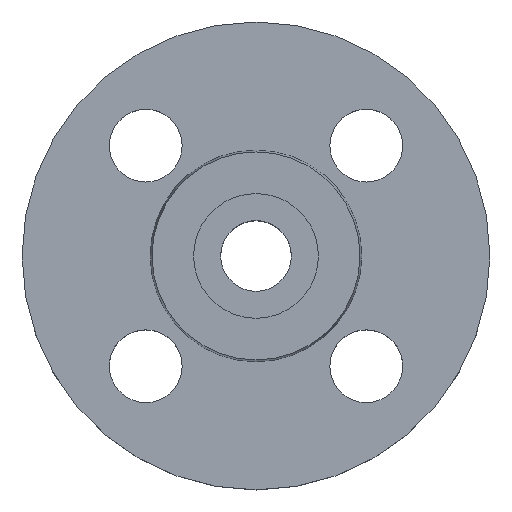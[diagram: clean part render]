
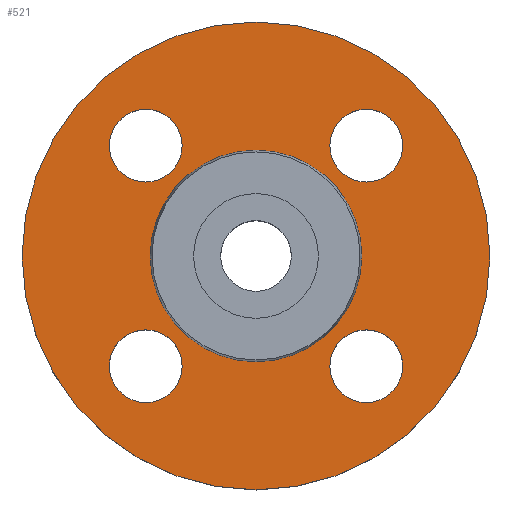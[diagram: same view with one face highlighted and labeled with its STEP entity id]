
A CAD part, top view. The second image highlights one B-rep face of the part: STEP entity #521.
In plain terms, the highlighted planar face has unit normal (0, 0, 1).
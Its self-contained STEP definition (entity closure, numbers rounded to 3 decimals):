
#1 = EDGE_LOOP ( 'NONE', ( #337, #505 ) ) ;
#4 = DIRECTION ( 'NONE',  ( 0., 0., -1. ) ) ;
#6 = DIRECTION ( 'NONE',  ( -1., 0., 0. ) ) ;
#13 = CARTESIAN_POINT ( 'NONE',  ( 0., 0., -2. ) ) ;
#23 = CARTESIAN_POINT ( 'NONE',  ( -21.213, 21.213, -2. ) ) ;
#37 = ORIENTED_EDGE ( 'NONE', *, *, #280, .T. ) ;
#39 = AXIS2_PLACEMENT_3D ( 'NONE', #654, #600, #676 ) ;
#47 = AXIS2_PLACEMENT_3D ( 'NONE', #899, #4, #6 ) ;
#49 = CIRCLE ( 'NONE', #59, 7. ) ;
#56 = AXIS2_PLACEMENT_3D ( 'NONE', #620, #623, #646 ) ;
#59 = AXIS2_PLACEMENT_3D ( 'NONE', #788, #548, #598 ) ;
#60 = VERTEX_POINT ( 'NONE', #536 ) ;
#70 = CIRCLE ( 'NONE', #191, 7. ) ;
#87 = DIRECTION ( 'NONE',  ( 1., 0., 0. ) ) ;
#97 = CIRCLE ( 'NONE', #101, 7. ) ;
#101 = AXIS2_PLACEMENT_3D ( 'NONE', #365, #174, #797 ) ;
#106 = AXIS2_PLACEMENT_3D ( 'NONE', #450, #885, #712 ) ;
#120 = ORIENTED_EDGE ( 'NONE', *, *, #195, .T. ) ;
#122 = PLANE ( 'NONE',  #831 ) ;
#135 = CIRCLE ( 'NONE', #508, 7. ) ;
#144 = FACE_BOUND ( 'NONE', #588, .T. ) ;
#148 = CIRCLE ( 'NONE', #250, 7. ) ;
#149 = EDGE_LOOP ( 'NONE', ( #555, #573 ) ) ;
#150 = EDGE_CURVE ( 'NONE', #60, #621, #792, .T. ) ;
#155 = VERTEX_POINT ( 'NONE', #247 ) ;
#174 = DIRECTION ( 'NONE',  ( 0., 0., -1. ) ) ;
#177 = DIRECTION ( 'NONE',  ( 0., 0., -1. ) ) ;
#184 = DIRECTION ( 'NONE',  ( 0., 0., -1. ) ) ;
#191 = AXIS2_PLACEMENT_3D ( 'NONE', #440, #879, #679 ) ;
#195 = EDGE_CURVE ( 'NONE', #401, #856, #148, .T. ) ;
#200 = DIRECTION ( 'NONE',  ( 1., 0., 0. ) ) ;
#210 = DIRECTION ( 'NONE',  ( 1., 0., 0. ) ) ;
#234 = CIRCLE ( 'NONE', #381, 7. ) ;
#235 = EDGE_CURVE ( 'NONE', #759, #898, #540, .T. ) ;
#241 = ORIENTED_EDGE ( 'NONE', *, *, #791, .T. ) ;
#247 = CARTESIAN_POINT ( 'NONE',  ( -28.213, -21.213, -2. ) ) ;
#250 = AXIS2_PLACEMENT_3D ( 'NONE', #688, #184, #803 ) ;
#254 = CIRCLE ( 'NONE', #106, 45. ) ;
#266 = EDGE_LOOP ( 'NONE', ( #120, #696 ) ) ;
#274 = CARTESIAN_POINT ( 'NONE',  ( -45., 0., -2. ) ) ;
#280 = EDGE_CURVE ( 'NONE', #155, #891, #234, .T. ) ;
#331 = DIRECTION ( 'NONE',  ( -1., 0., 0. ) ) ;
#337 = ORIENTED_EDGE ( 'NONE', *, *, #353, .T. ) ;
#353 = EDGE_CURVE ( 'NONE', #621, #60, #517, .T. ) ;
#356 = ORIENTED_EDGE ( 'NONE', *, *, #235, .F. ) ;
#365 = CARTESIAN_POINT ( 'NONE',  ( 21.213, 21.213, -2. ) ) ;
#372 = EDGE_CURVE ( 'NONE', #755, #752, #669, .T. ) ;
#381 = AXIS2_PLACEMENT_3D ( 'NONE', #489, #177, #210 ) ;
#397 = EDGE_LOOP ( 'NONE', ( #356, #817 ) ) ;
#401 = VERTEX_POINT ( 'NONE', #700 ) ;
#407 = DIRECTION ( 'NONE',  ( 0., 0., -1. ) ) ;
#422 = AXIS2_PLACEMENT_3D ( 'NONE', #23, #745, #502 ) ;
#440 = CARTESIAN_POINT ( 'NONE',  ( -21.213, -21.213, -2. ) ) ;
#442 = ORIENTED_EDGE ( 'NONE', *, *, #601, .T. ) ;
#450 = CARTESIAN_POINT ( 'NONE',  ( 0., 0., -2. ) ) ;
#451 = CARTESIAN_POINT ( 'NONE',  ( -20.353, 0., -2. ) ) ;
#470 = CARTESIAN_POINT ( 'NONE',  ( 14.213, 21.213, -2. ) ) ;
#482 = CARTESIAN_POINT ( 'NONE',  ( -14.213, 21.213, -2. ) ) ;
#489 = CARTESIAN_POINT ( 'NONE',  ( -21.213, -21.213, -2. ) ) ;
#490 = CARTESIAN_POINT ( 'NONE',  ( 21.213, -21.213, -2. ) ) ;
#500 = AXIS2_PLACEMENT_3D ( 'NONE', #13, #686, #331 ) ;
#502 = DIRECTION ( 'NONE',  ( 1., 0., 0. ) ) ;
#505 = ORIENTED_EDGE ( 'NONE', *, *, #150, .T. ) ;
#508 = AXIS2_PLACEMENT_3D ( 'NONE', #490, #407, #87 ) ;
#514 = ORIENTED_EDGE ( 'NONE', *, *, #372, .T. ) ;
#517 = CIRCLE ( 'NONE', #56, 7. ) ;
#521 = ADVANCED_FACE ( 'NONE', ( #535, #615, #779, #544, #144, #718 ), #122, .T. ) ;
#535 = FACE_BOUND ( 'NONE', #266, .T. ) ;
#536 = CARTESIAN_POINT ( 'NONE',  ( -28.213, 21.213, -2. ) ) ;
#540 = CIRCLE ( 'NONE', #47, 45. ) ;
#544 = FACE_BOUND ( 'NONE', #149, .T. ) ;
#548 = DIRECTION ( 'NONE',  ( 0., 0., -1. ) ) ;
#555 = ORIENTED_EDGE ( 'NONE', *, *, #589, .T. ) ;
#561 = CARTESIAN_POINT ( 'NONE',  ( 20.353, 0., -2. ) ) ;
#573 = ORIENTED_EDGE ( 'NONE', *, *, #642, .T. ) ;
#579 = VERTEX_POINT ( 'NONE', #470 ) ;
#588 = EDGE_LOOP ( 'NONE', ( #514, #241 ) ) ;
#589 = EDGE_CURVE ( 'NONE', #626, #579, #49, .T. ) ;
#598 = DIRECTION ( 'NONE',  ( 1., 0., 0. ) ) ;
#600 = DIRECTION ( 'NONE',  ( 0., 0., -1. ) ) ;
#601 = EDGE_CURVE ( 'NONE', #891, #155, #70, .T. ) ;
#615 = FACE_BOUND ( 'NONE', #740, .T. ) ;
#620 = CARTESIAN_POINT ( 'NONE',  ( -21.213, 21.213, -2. ) ) ;
#621 = VERTEX_POINT ( 'NONE', #482 ) ;
#623 = DIRECTION ( 'NONE',  ( 0., 0., -1. ) ) ;
#626 = VERTEX_POINT ( 'NONE', #650 ) ;
#642 = EDGE_CURVE ( 'NONE', #579, #626, #97, .T. ) ;
#646 = DIRECTION ( 'NONE',  ( 1., 0., 0. ) ) ;
#650 = CARTESIAN_POINT ( 'NONE',  ( 28.213, 21.213, -2. ) ) ;
#654 = CARTESIAN_POINT ( 'NONE',  ( 0., 0., -2. ) ) ;
#657 = CARTESIAN_POINT ( 'NONE',  ( 20.353, 0., -2. ) ) ;
#664 = CARTESIAN_POINT ( 'NONE',  ( 45., 0., -2. ) ) ;
#669 = CIRCLE ( 'NONE', #39, 20.353 ) ;
#676 = DIRECTION ( 'NONE',  ( -1., 0., 0. ) ) ;
#679 = DIRECTION ( 'NONE',  ( 1., 0., 0. ) ) ;
#686 = DIRECTION ( 'NONE',  ( 0., 0., -1. ) ) ;
#688 = CARTESIAN_POINT ( 'NONE',  ( 21.213, -21.213, -2. ) ) ;
#696 = ORIENTED_EDGE ( 'NONE', *, *, #787, .T. ) ;
#700 = CARTESIAN_POINT ( 'NONE',  ( 28.213, -21.213, -2. ) ) ;
#712 = DIRECTION ( 'NONE',  ( -1., 0., 0. ) ) ;
#718 = FACE_OUTER_BOUND ( 'NONE', #397, .T. ) ;
#734 = EDGE_CURVE ( 'NONE', #898, #759, #254, .T. ) ;
#740 = EDGE_LOOP ( 'NONE', ( #442, #37 ) ) ;
#742 = CIRCLE ( 'NONE', #500, 20.353 ) ;
#745 = DIRECTION ( 'NONE',  ( 0., 0., -1. ) ) ;
#752 = VERTEX_POINT ( 'NONE', #561 ) ;
#755 = VERTEX_POINT ( 'NONE', #451 ) ;
#759 = VERTEX_POINT ( 'NONE', #664 ) ;
#779 = FACE_BOUND ( 'NONE', #1, .T. ) ;
#787 = EDGE_CURVE ( 'NONE', #856, #401, #135, .T. ) ;
#788 = CARTESIAN_POINT ( 'NONE',  ( 21.213, 21.213, -2. ) ) ;
#791 = EDGE_CURVE ( 'NONE', #752, #755, #742, .T. ) ;
#792 = CIRCLE ( 'NONE', #422, 7. ) ;
#797 = DIRECTION ( 'NONE',  ( 1., 0., 0. ) ) ;
#803 = DIRECTION ( 'NONE',  ( 1., 0., 0. ) ) ;
#817 = ORIENTED_EDGE ( 'NONE', *, *, #734, .F. ) ;
#818 = DIRECTION ( 'NONE',  ( 0., 0., 1. ) ) ;
#831 = AXIS2_PLACEMENT_3D ( 'NONE', #657, #818, #200 ) ;
#834 = CARTESIAN_POINT ( 'NONE',  ( -14.213, -21.213, -2. ) ) ;
#856 = VERTEX_POINT ( 'NONE', #872 ) ;
#872 = CARTESIAN_POINT ( 'NONE',  ( 14.213, -21.213, -2. ) ) ;
#879 = DIRECTION ( 'NONE',  ( 0., 0., -1. ) ) ;
#885 = DIRECTION ( 'NONE',  ( 0., 0., -1. ) ) ;
#891 = VERTEX_POINT ( 'NONE', #834 ) ;
#898 = VERTEX_POINT ( 'NONE', #274 ) ;
#899 = CARTESIAN_POINT ( 'NONE',  ( 0., 0., -2. ) ) ;
